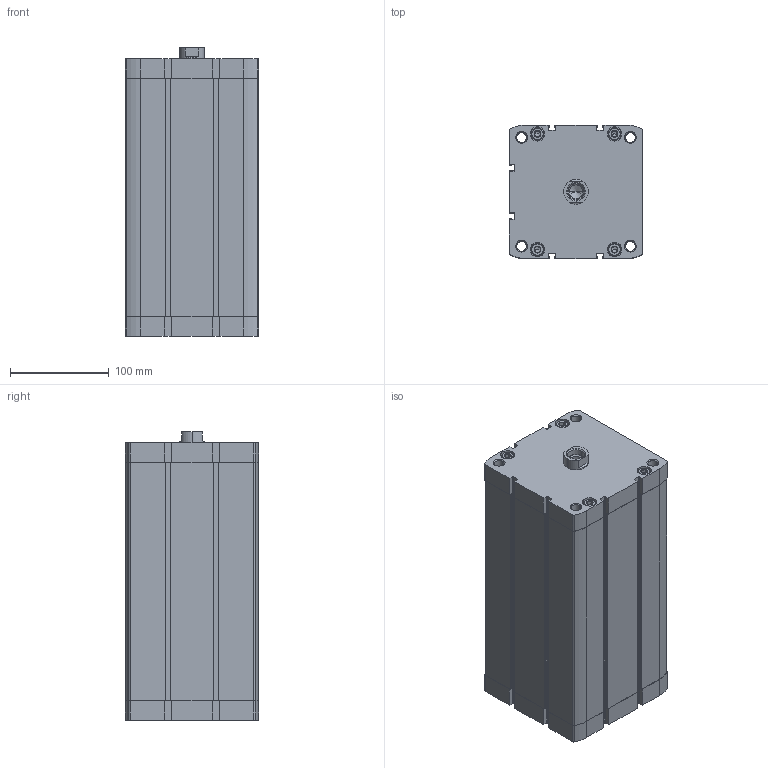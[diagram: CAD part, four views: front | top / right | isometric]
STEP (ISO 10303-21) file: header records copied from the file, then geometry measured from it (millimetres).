
FILE_DESCRIPTION (( 'STEP AP203' ), '1' );
FILE_NAME ('CCN125-200F.STEP', '2020-06-05T19:30:35', ( '' ), ( '' ), 'SwSTEP 2.0', 'SolidWorks 2019', '' );
FILE_SCHEMA (( 'CONFIG_CONTROL_DESIGN' ));
Length unit declared in the file: millimetre
Products named in the file (1): CCN125-200F
Bounding box: 134.6 x 134.6 x 292 mm (x, y, z)
Volume: 2511181.8 mm3; surface area: 420339.7 mm2
Topology: 2 solids, 2 shells, 535 faces, 1370 edges, 861 vertices
Faces by surface type: plane 267, cylinder 194, cone 74
Entity records: 17215 total; most frequent: CARTESIAN_POINT 3931, DIRECTION 2876, ORIENTED_EDGE 2704, EDGE_CURVE 1352, AXIS2_PLACEMENT_3D 1054, VERTEX_POINT 861, LINE 768, VECTOR 768
